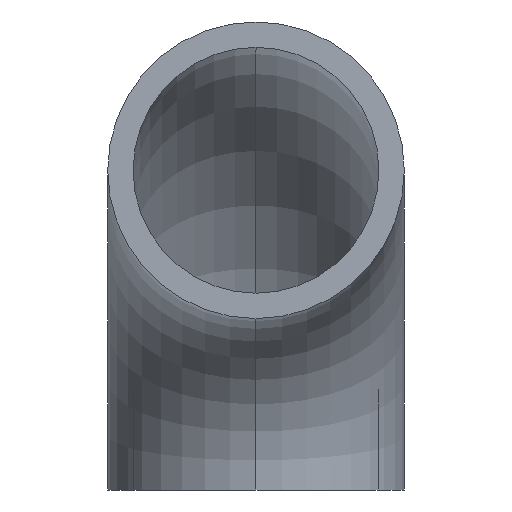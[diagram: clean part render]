
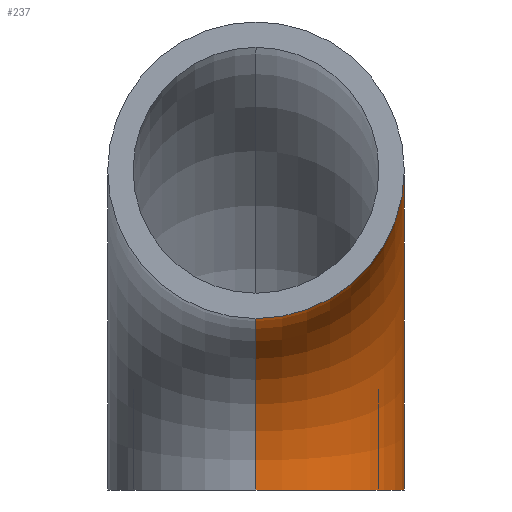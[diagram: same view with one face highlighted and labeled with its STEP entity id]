
A CAD part, front view. The second image highlights one B-rep face of the part: STEP entity #237.
In plain terms, the highlighted toroidal (fillet/blend) face has major radius 29 mm and minor radius 13.45 mm.
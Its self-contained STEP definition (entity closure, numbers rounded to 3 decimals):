
#1 = DIRECTION ( 'NONE',  ( 0., -1., 0. ) ) ;
#5 = ORIENTED_EDGE ( 'NONE', *, *, #135, .T. ) ;
#6 = DIRECTION ( 'NONE',  ( 0., 0., -1. ) ) ;
#7 = EDGE_LOOP ( 'NONE', ( #251, #5, #287, #244 ) ) ;
#33 = CARTESIAN_POINT ( 'NONE',  ( -85., 2092., 5746.85 ) ) ;
#35 = CARTESIAN_POINT ( 'NONE',  ( -85., 2107.55, 5746.85 ) ) ;
#36 = EDGE_CURVE ( 'NONE', #115, #316, #293, .T. ) ;
#47 = TOROIDAL_SURFACE ( 'NONE', #67, 29., 13.45 ) ;
#51 = DIRECTION ( 'NONE',  ( 0., -1., 0. ) ) ;
#54 = CIRCLE ( 'NONE', #279, 42.45 ) ;
#58 = DIRECTION ( 'NONE',  ( 0., 0., 1. ) ) ;
#61 = CIRCLE ( 'NONE', #261, 15.55 ) ;
#65 = DIRECTION ( 'NONE',  ( 0., 0., -1. ) ) ;
#67 = AXIS2_PLACEMENT_3D ( 'NONE', #33, #171, #6 ) ;
#80 = CIRCLE ( 'NONE', #109, 13.45 ) ;
#86 = CARTESIAN_POINT ( 'NONE',  ( -85., 2092., 5789.3 ) ) ;
#109 = AXIS2_PLACEMENT_3D ( 'NONE', #179, #58, #1 ) ;
#115 = VERTEX_POINT ( 'NONE', #164 ) ;
#126 = CARTESIAN_POINT ( 'NONE',  ( -85., 2092., 5746.85 ) ) ;
#129 = FACE_OUTER_BOUND ( 'NONE', #7, .T. ) ;
#135 = EDGE_CURVE ( 'NONE', #314, #316, #54, .T. ) ;
#136 = CARTESIAN_POINT ( 'NONE',  ( -85., 2134.45, 5746.85 ) ) ;
#154 = DIRECTION ( 'NONE',  ( 1., 0., 0. ) ) ;
#164 = CARTESIAN_POINT ( 'NONE',  ( -85., 2092., 5762.4 ) ) ;
#171 = DIRECTION ( 'NONE',  ( 1., 0., 0. ) ) ;
#179 = CARTESIAN_POINT ( 'NONE',  ( -85., 2121., 5746.85 ) ) ;
#204 = EDGE_CURVE ( 'NONE', #240, #314, #80, .T. ) ;
#206 = CARTESIAN_POINT ( 'NONE',  ( -85., 2092., 5746.85 ) ) ;
#207 = EDGE_CURVE ( 'NONE', #240, #115, #61, .T. ) ;
#209 = DIRECTION ( 'NONE',  ( 1., 0., 0. ) ) ;
#228 = DIRECTION ( 'NONE',  ( 0., 0., -1. ) ) ;
#237 = ADVANCED_FACE ( 'NONE', ( #129 ), #47, .T. ) ;
#240 = VERTEX_POINT ( 'NONE', #35 ) ;
#244 = ORIENTED_EDGE ( 'NONE', *, *, #207, .F. ) ;
#251 = ORIENTED_EDGE ( 'NONE', *, *, #204, .T. ) ;
#261 = AXIS2_PLACEMENT_3D ( 'NONE', #126, #154, #228 ) ;
#276 = CARTESIAN_POINT ( 'NONE',  ( -85., 2092., 5775.85 ) ) ;
#279 = AXIS2_PLACEMENT_3D ( 'NONE', #206, #209, #65 ) ;
#287 = ORIENTED_EDGE ( 'NONE', *, *, #36, .F. ) ;
#293 = CIRCLE ( 'NONE', #311, 13.45 ) ;
#301 = DIRECTION ( 'NONE',  ( 0., 0., -1. ) ) ;
#311 = AXIS2_PLACEMENT_3D ( 'NONE', #276, #51, #301 ) ;
#314 = VERTEX_POINT ( 'NONE', #136 ) ;
#316 = VERTEX_POINT ( 'NONE', #86 ) ;
